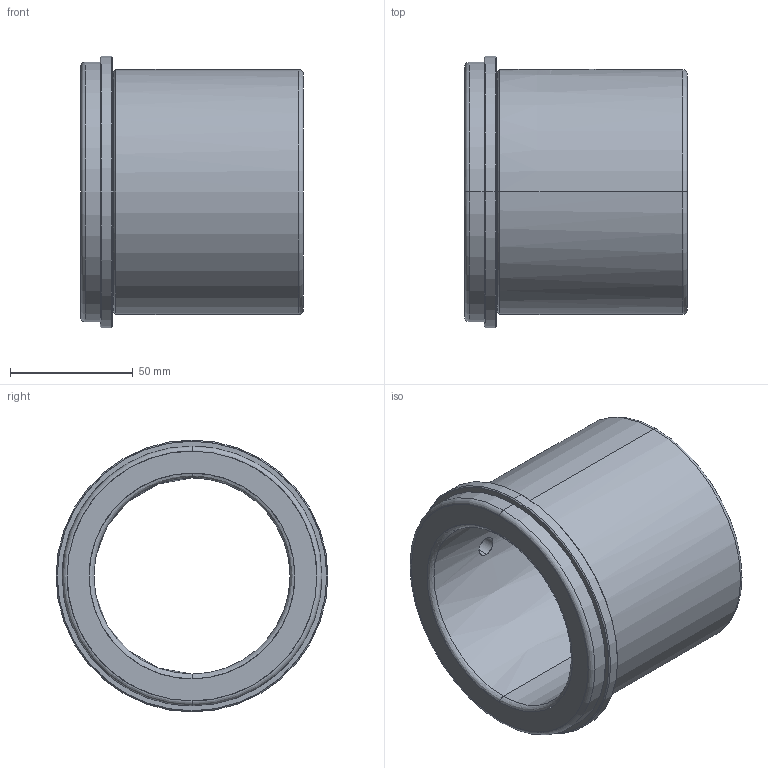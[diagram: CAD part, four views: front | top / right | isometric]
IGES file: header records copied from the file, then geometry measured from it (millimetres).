
Start section: START RECORD GO HERE.
Global section: file name: FAMO-SF1-A80 x 91.igs; native system: DASSAULT SYSTEMES CATIA V5 R20 - www.3ds.com; preprocessor: CATIA Version 5 Release 20 ; author: Utente; organization: NB04-ASUS; date: 20210106.170736; units: millimetre
Bounding box: 91 x 111 x 111 mm (x, y, z)
Surface area: 60917.3 mm2 (no closed solid volume)
Topology: 0 solids, 0 shells, 33 faces, 224 edges, 224 vertices
Faces by surface type: revolution 28, plane 5
